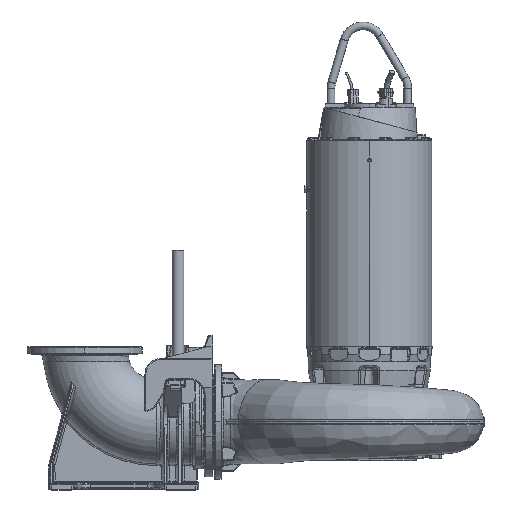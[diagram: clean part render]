
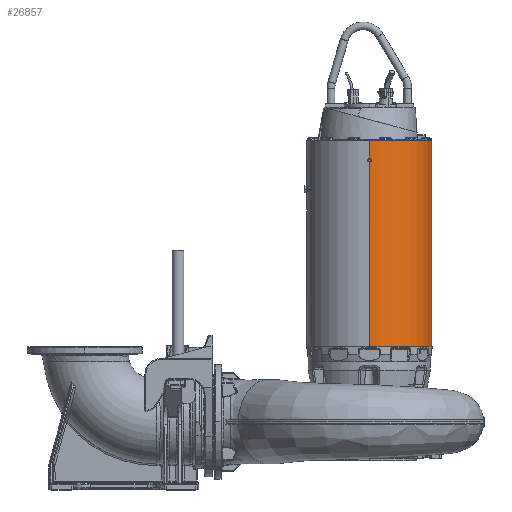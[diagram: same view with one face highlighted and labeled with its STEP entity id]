
A CAD part, top view. The second image highlights one B-rep face of the part: STEP entity #26857.
In plain terms, the highlighted cylindrical face has radius 322 mm (diameter 644 mm), a partial arc.
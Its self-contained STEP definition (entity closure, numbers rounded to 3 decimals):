
#1812 = ORIENTED_EDGE ( 'NONE', *, *, #215811, .T. ) ;
#2984 = VERTEX_POINT ( 'NONE', #98250 ) ;
#4799 = CARTESIAN_POINT ( 'NONE',  ( 9.5, 945.485, 321.86 ) ) ;
#5597 = AXIS2_PLACEMENT_3D ( 'NONE', #190818, #42752, #215732 ) ;
#9297 = CARTESIAN_POINT ( 'NONE',  ( 3.167, 930.859, -322. ) ) ;
#11089 = CARTESIAN_POINT ( 'NONE',  ( 0., 929.03, 322. ) ) ;
#12296 = VERTEX_POINT ( 'NONE', #133941 ) ;
#17875 = CARTESIAN_POINT ( 'NONE',  ( 0., 950.97, 322. ) ) ;
#19935 = DIRECTION ( 'NONE',  ( 0., 0., -1. ) ) ;
#25376 = EDGE_CURVE ( 'NONE', #230843, #246601, #315177, .T. ) ;
#26686 = VERTEX_POINT ( 'NONE', #66545 ) ;
#26706 = EDGE_LOOP ( 'NONE', ( #267853, #178030, #1812, #209780, #200598, #34157, #265734, #313492, #46240, #153001, #316037, #88739 ) ) ;
#26857 = ADVANCED_FACE ( 'NONE', ( #211481 ), #122402, .T. ) ;
#29384 = DIRECTION ( 'NONE',  ( 0., -1., 0. ) ) ;
#32371 = CARTESIAN_POINT ( 'NONE',  ( 6.334, 947.313, 321.953 ) ) ;
#34157 = ORIENTED_EDGE ( 'NONE', *, *, #75159, .T. ) ;
#35699 = VERTEX_POINT ( 'NONE', #4799 ) ;
#35932 = VECTOR ( 'NONE', #249403, 1000. ) ;
#42752 = DIRECTION ( 'NONE',  ( 0., -1., 0. ) ) ;
#43846 = DIRECTION ( 'NONE',  ( 0., -1., 0. ) ) ;
#44759 =( BOUNDED_CURVE ( )  B_SPLINE_CURVE ( 3, ( #186551, #236257, #310884, #162780 ),
 .UNSPECIFIED., .F., .F. ) 
 B_SPLINE_CURVE_WITH_KNOTS ( ( 4, 4 ),
 ( 1.571, 1.6 ),
 .UNSPECIFIED. ) 
 CURVE ( )  GEOMETRIC_REPRESENTATION_ITEM ( )  RATIONAL_B_SPLINE_CURVE ( ( 1., 1., 1., 1. ) ) 
 REPRESENTATION_ITEM ( '' )  );
#46240 = ORIENTED_EDGE ( 'NONE', *, *, #233302, .F. ) ;
#51412 = DIRECTION ( 'NONE',  ( 0., -1., 0. ) ) ;
#61431 = EDGE_CURVE ( 'NONE', #146004, #26686, #167434, .T. ) ;
#66545 = CARTESIAN_POINT ( 'NONE',  ( 0., 950.97, -322. ) ) ;
#71659 = CARTESIAN_POINT ( 'NONE',  ( 3.167, 930.859, 322. ) ) ;
#72315 = EDGE_CURVE ( 'NONE', #12296, #252998, #274927, .T. ) ;
#75159 = EDGE_CURVE ( 'NONE', #246601, #252998, #258172, .T. ) ;
#83221 = CARTESIAN_POINT ( 'NONE',  ( 9.5, 934.515, 321.86 ) ) ;
#85377 = VERTEX_POINT ( 'NONE', #111356 ) ;
#88739 = ORIENTED_EDGE ( 'NONE', *, *, #61431, .F. ) ;
#95091 = EDGE_CURVE ( 'NONE', #2984, #161351, #190125, .T. ) ;
#98250 = CARTESIAN_POINT ( 'NONE',  ( 9.5, 945.485, -321.86 ) ) ;
#104876 = CARTESIAN_POINT ( 'NONE',  ( 0., 950.97, 322. ) ) ;
#105946 = CARTESIAN_POINT ( 'NONE',  ( 3.167, 949.141, 322. ) ) ;
#111356 = CARTESIAN_POINT ( 'NONE',  ( 0., 1040., 322. ) ) ;
#111368 = AXIS2_PLACEMENT_3D ( 'NONE', #177479, #29384, #202361 ) ;
#114522 = CARTESIAN_POINT ( 'NONE',  ( 0., 0., 322. ) ) ;
#119172 = VECTOR ( 'NONE', #222683, 1000. ) ;
#120477 = CARTESIAN_POINT ( 'NONE',  ( 9.5, 934.515, -321.86 ) ) ;
#122402 = CYLINDRICAL_SURFACE ( 'NONE', #251877, 322. ) ;
#125842 = LINE ( 'NONE', #130452, #191573 ) ;
#128340 = CARTESIAN_POINT ( 'NONE',  ( 0., 0., -322. ) ) ;
#130364 =( BOUNDED_CURVE ( )  B_SPLINE_CURVE ( 3, ( #231023, #157577, #9297, #182372 ),
 .UNSPECIFIED., .F., .F. ) 
 B_SPLINE_CURVE_WITH_KNOTS ( ( 4, 4 ),
 ( 1.541, 1.571 ),
 .UNSPECIFIED. ) 
 CURVE ( )  GEOMETRIC_REPRESENTATION_ITEM ( )  RATIONAL_B_SPLINE_CURVE ( ( 1., 1., 1., 1. ) ) 
 REPRESENTATION_ITEM ( '' )  );
#130452 = CARTESIAN_POINT ( 'NONE',  ( 9.5, 1180.349, 321.86 ) ) ;
#133941 = CARTESIAN_POINT ( 'NONE',  ( 0., -20., -322. ) ) ;
#135360 = LINE ( 'NONE', #298949, #317164 ) ;
#145118 = CARTESIAN_POINT ( 'NONE',  ( 0., 929.03, -322. ) ) ;
#146004 = VERTEX_POINT ( 'NONE', #309117 ) ;
#146230 = CARTESIAN_POINT ( 'NONE',  ( 0., 929.03, 322. ) ) ;
#153001 = ORIENTED_EDGE ( 'NONE', *, *, #95091, .F. ) ;
#157577 = CARTESIAN_POINT ( 'NONE',  ( 6.334, 932.687, -321.953 ) ) ;
#161351 = VERTEX_POINT ( 'NONE', #120477 ) ;
#162780 = CARTESIAN_POINT ( 'NONE',  ( 9.5, 945.485, -321.86 ) ) ;
#167266 = VERTEX_POINT ( 'NONE', #145118 ) ;
#167434 = LINE ( 'NONE', #128340, #35932 ) ;
#168403 = EDGE_CURVE ( 'NONE', #35699, #230843, #125842, .T. ) ;
#168474 = DIRECTION ( 'NONE',  ( 0., -1., 0. ) ) ;
#173487 = CARTESIAN_POINT ( 'NONE',  ( 0., -20., 322. ) ) ;
#177479 = CARTESIAN_POINT ( 'NONE',  ( 0., 1040., 0. ) ) ;
#178030 = ORIENTED_EDGE ( 'NONE', *, *, #191118, .T. ) ;
#182372 = CARTESIAN_POINT ( 'NONE',  ( 0., 929.03, -322. ) ) ;
#184941 = LINE ( 'NONE', #296150, #119172 ) ;
#186551 = CARTESIAN_POINT ( 'NONE',  ( 0., 950.97, -322. ) ) ;
#190125 = LINE ( 'NONE', #316604, #248140 ) ;
#190818 = CARTESIAN_POINT ( 'NONE',  ( 0., -20., 0. ) ) ;
#191118 = EDGE_CURVE ( 'NONE', #85377, #281075, #184941, .T. ) ;
#191573 = VECTOR ( 'NONE', #254707, 1000. ) ;
#191911 = CARTESIAN_POINT ( 'NONE',  ( 0., 0., 0. ) ) ;
#195833 = EDGE_CURVE ( 'NONE', #146004, #85377, #313822, .T. ) ;
#199780 = EDGE_CURVE ( 'NONE', #26686, #2984, #44759, .T. ) ;
#200598 = ORIENTED_EDGE ( 'NONE', *, *, #25376, .T. ) ;
#202361 = DIRECTION ( 'NONE',  ( 0., 0., -1. ) ) ;
#204412 = DIRECTION ( 'NONE',  ( 0., -1., 0. ) ) ;
#205358 = CARTESIAN_POINT ( 'NONE',  ( 9.5, 945.485, 321.86 ) ) ;
#209780 = ORIENTED_EDGE ( 'NONE', *, *, #168403, .T. ) ;
#211481 = FACE_OUTER_BOUND ( 'NONE', #26706, .T. ) ;
#215732 = DIRECTION ( 'NONE',  ( 1., 0., 0. ) ) ;
#215811 = EDGE_CURVE ( 'NONE', #281075, #35699, #273840, .T. ) ;
#222683 = DIRECTION ( 'NONE',  ( 0., -1., 0. ) ) ;
#230843 = VERTEX_POINT ( 'NONE', #83221 ) ;
#231023 = CARTESIAN_POINT ( 'NONE',  ( 9.5, 934.515, -321.86 ) ) ;
#233302 = EDGE_CURVE ( 'NONE', #161351, #167266, #130364, .T. ) ;
#236257 = CARTESIAN_POINT ( 'NONE',  ( 3.167, 949.141, -322. ) ) ;
#246497 = EDGE_CURVE ( 'NONE', #167266, #12296, #135360, .T. ) ;
#246601 = VERTEX_POINT ( 'NONE', #11089 ) ;
#248140 = VECTOR ( 'NONE', #168474, 1000. ) ;
#249403 = DIRECTION ( 'NONE',  ( 0., -1., 0. ) ) ;
#250374 = VECTOR ( 'NONE', #204412, 1000. ) ;
#251877 = AXIS2_PLACEMENT_3D ( 'NONE', #191911, #43846, #19935 ) ;
#252998 = VERTEX_POINT ( 'NONE', #173487 ) ;
#254707 = DIRECTION ( 'NONE',  ( 0., -1., 0. ) ) ;
#258172 = LINE ( 'NONE', #114522, #250374 ) ;
#265734 = ORIENTED_EDGE ( 'NONE', *, *, #72315, .F. ) ;
#267853 = ORIENTED_EDGE ( 'NONE', *, *, #195833, .T. ) ;
#273840 =( BOUNDED_CURVE ( )  B_SPLINE_CURVE ( 3, ( #104876, #105946, #32371, #205358 ),
 .UNSPECIFIED., .F., .F. ) 
 B_SPLINE_CURVE_WITH_KNOTS ( ( 4, 4 ),
 ( 1.571, 1.6 ),
 .UNSPECIFIED. ) 
 CURVE ( )  GEOMETRIC_REPRESENTATION_ITEM ( )  RATIONAL_B_SPLINE_CURVE ( ( 1., 1., 1., 1. ) ) 
 REPRESENTATION_ITEM ( '' )  );
#274927 = CIRCLE ( 'NONE', #5597, 322. ) ;
#281075 = VERTEX_POINT ( 'NONE', #17875 ) ;
#294265 = CARTESIAN_POINT ( 'NONE',  ( 9.5, 934.515, 321.86 ) ) ;
#296150 = CARTESIAN_POINT ( 'NONE',  ( 0., 0., 322. ) ) ;
#298949 = CARTESIAN_POINT ( 'NONE',  ( 0., 0., -322. ) ) ;
#309117 = CARTESIAN_POINT ( 'NONE',  ( 0., 1040., -322. ) ) ;
#310884 = CARTESIAN_POINT ( 'NONE',  ( 6.334, 947.313, -321.953 ) ) ;
#313492 = ORIENTED_EDGE ( 'NONE', *, *, #246497, .F. ) ;
#313822 = CIRCLE ( 'NONE', #111368, 322. ) ;
#315177 =( BOUNDED_CURVE ( )  B_SPLINE_CURVE ( 3, ( #294265, #317073, #71659, #146230 ),
 .UNSPECIFIED., .F., .T. ) 
 B_SPLINE_CURVE_WITH_KNOTS ( ( 4, 4 ),
 ( 1.541, 1.571 ),
 .UNSPECIFIED. ) 
 CURVE ( )  GEOMETRIC_REPRESENTATION_ITEM ( )  RATIONAL_B_SPLINE_CURVE ( ( 1., 1., 1., 1. ) ) 
 REPRESENTATION_ITEM ( '' )  );
#316037 = ORIENTED_EDGE ( 'NONE', *, *, #199780, .F. ) ;
#316604 = CARTESIAN_POINT ( 'NONE',  ( 9.5, 1180.349, -321.86 ) ) ;
#317073 = CARTESIAN_POINT ( 'NONE',  ( 6.334, 932.687, 321.953 ) ) ;
#317164 = VECTOR ( 'NONE', #51412, 1000. ) ;
